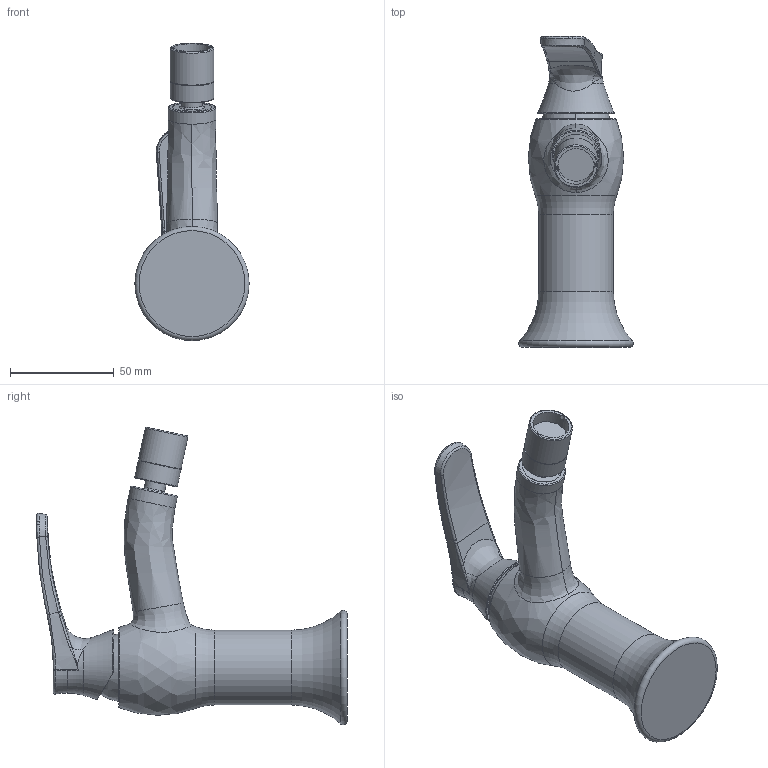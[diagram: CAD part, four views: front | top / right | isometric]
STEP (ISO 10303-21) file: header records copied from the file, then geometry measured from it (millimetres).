
FILE_DESCRIPTION(/* description */ (''),/* implementation_level */ '2;1');
FILE_NAME(/* name */ 'c:\worker\convert-fusion-r09\tmp\job-1\48\output\files\ac22d616-9d43-43fb-9427-082eb4d71512\fd7da80e-5311-4400-8bdd-172e46c82f56.stp',/* time_stamp */ '2019-12-16T13:05:43+00:00',/* author */ (''),/* organization */ (''),/* preprocessor_version */ 'ST-DEVELOPER v18',/* originating_system */ 'Autodesk Translation Framework v8.12.0.6',/* authorisation */ '');
FILE_SCHEMA (('AUTOMOTIVE_DESIGN { 1 0 10303 214 3 1 1 }'));
Length unit declared in the file: millimetre
Products named in the file (1): !AD5120
Bounding box: 54.99 x 149.53 x 143.14 mm (x, y, z)
Volume: 197909.9 mm3; surface area: 37206.1 mm2
Topology: 7 solids, 7 shells, 105 faces, 355 edges, 263 vertices
Faces by surface type: bspline 46, plane 22, cylinder 18, torus 16, cone 2, sphere 1
Full cylindrical faces by diameter (mm): 5.2 x1, 10 x1, 15 x1, 17.5 x1, 18.9 x1, 19 x1, 21 x2, 23 x1, 36 x1
Entity records: 11210 total; most frequent: CARTESIAN_POINT 8466, ORIENTED_EDGE 698, DIRECTION 486, EDGE_CURVE 349, VERTEX_POINT 263, AXIS2_PLACEMENT_3D 227, CIRCLE 155, EDGE_LOOP 112
